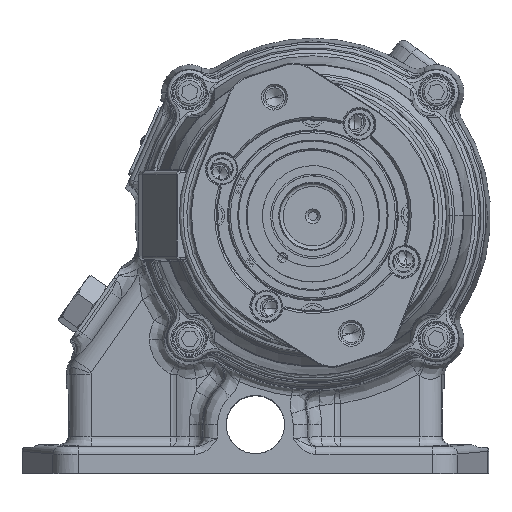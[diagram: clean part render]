
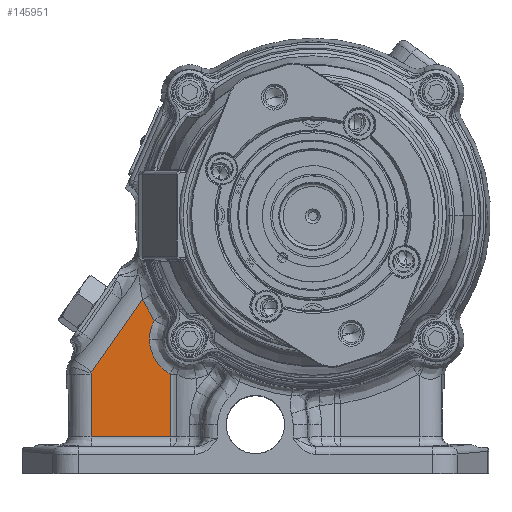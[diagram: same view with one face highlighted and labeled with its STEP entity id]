
A CAD part, top view. The second image highlights one B-rep face of the part: STEP entity #145951.
In plain terms, the highlighted planar face has unit normal (0, 0, 1).
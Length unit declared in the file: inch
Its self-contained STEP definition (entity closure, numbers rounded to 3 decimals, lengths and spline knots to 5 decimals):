
#246 = CARTESIAN_POINT ( 'NONE',  ( -4.18096, 1.60727, 1.3875 ) ) ;
#1096 = VERTEX_POINT ( 'NONE', #92290 ) ;
#5112 = CARTESIAN_POINT ( 'NONE',  ( -2.71359, 0.83497, 1.3875 ) ) ;
#5139 = VECTOR ( 'NONE', #5451, 39.37008 ) ;
#5451 = DIRECTION ( 'NONE',  ( -0.512, 0.859, 0. ) ) ;
#7118 = CARTESIAN_POINT ( 'NONE',  ( -1.83816, 0.01261, 1.3875 ) ) ;
#7927 = VERTEX_POINT ( 'NONE', #69440 ) ;
#10930 = EDGE_CURVE ( 'NONE', #1096, #87466, #110788, .T. ) ;
#16339 = CARTESIAN_POINT ( 'NONE',  ( -2.32198, 0.42411, 1.3875 ) ) ;
#16641 = CARTESIAN_POINT ( 'NONE',  ( -2.12303, 0.15221, 1.3875 ) ) ;
#17274 = B_SPLINE_CURVE_WITH_KNOTS ( 'NONE', 3,
 ( #57180, #153644, #121721, #45320 ),
 .UNSPECIFIED., .F., .F.,
 ( 4, 4 ),
 ( 0., 1. ),
 .UNSPECIFIED. ) ;
#18211 = CARTESIAN_POINT ( 'NONE',  ( -2.16128, 0.18698, 1.3875 ) ) ;
#20182 = CARTESIAN_POINT ( 'NONE',  ( 0.93723, 0.319, 1.3875 ) ) ;
#20646 = VERTEX_POINT ( 'NONE', #56575 ) ;
#25785 = DIRECTION ( 'NONE',  ( 0., 0., 1. ) ) ;
#26015 = EDGE_CURVE ( 'NONE', #107672, #128332, #88388, .T. ) ;
#26535 = PLANE ( 'NONE',  #100285 ) ;
#27749 = CARTESIAN_POINT ( 'NONE',  ( -1.84176, 0.01343, 1.3875 ) ) ;
#30829 = CARTESIAN_POINT ( 'NONE',  ( -2.27168, 0.32661, 1.3875 ) ) ;
#32243 = CARTESIAN_POINT ( 'NONE',  ( -2.82329, -0.66259, 1.3875 ) ) ;
#34149 = CARTESIAN_POINT ( 'NONE',  ( -2.81368, -0.68924, 1.3875 ) ) ;
#36606 = VECTOR ( 'NONE', #39369, 39.37008 ) ;
#38155 = DIRECTION ( 'NONE',  ( -0.512, 0.859, 0. ) ) ;
#39040 = CARTESIAN_POINT ( 'NONE',  ( -2.71359, 0.83497, 1.3875 ) ) ;
#39369 = DIRECTION ( 'NONE',  ( 0.859, 0.512, 0. ) ) ;
#40369 = CARTESIAN_POINT ( 'NONE',  ( -1.74379, -0.00273, 1.3875 ) ) ;
#41027 = CARTESIAN_POINT ( 'NONE',  ( -2.27523, -1.59362, 1.3875 ) ) ;
#41097 = CARTESIAN_POINT ( 'NONE',  ( -2.81368, -0.68924, 1.3875 ) ) ;
#41779 = CARTESIAN_POINT ( 'NONE',  ( -3.03517, 2.28945, 1.3875 ) ) ;
#42086 = CARTESIAN_POINT ( 'NONE',  ( -2.82165, -0.66952, 1.3875 ) ) ;
#43477 = CARTESIAN_POINT ( 'NONE',  ( -2.24138, 0.27572, 1.3875 ) ) ;
#45320 = CARTESIAN_POINT ( 'NONE',  ( -2.71359, 0.83497, 1.3875 ) ) ;
#46084 = ORIENTED_EDGE ( 'NONE', *, *, #138303, .T. ) ;
#49947 = VECTOR ( 'NONE', #38155, 39.37008 ) ;
#53007 = CARTESIAN_POINT ( 'NONE',  ( -2.15985, 0.1856, 1.3875 ) ) ;
#53653 = ORIENTED_EDGE ( 'NONE', *, *, #150174, .F. ) ;
#54538 = CARTESIAN_POINT ( 'NONE',  ( -1.83274, 0.01141, 1.3875 ) ) ;
#55027 = CARTESIAN_POINT ( 'NONE',  ( -2.27168, 0.32661, 1.3875 ) ) ;
#55346 = CARTESIAN_POINT ( 'NONE',  ( -2.14309, 0.16988, 1.3875 ) ) ;
#56575 = CARTESIAN_POINT ( 'NONE',  ( -2.36601, 0.63873, 1.3875 ) ) ;
#57180 = CARTESIAN_POINT ( 'NONE',  ( -2.36601, 0.63873, 1.3875 ) ) ;
#58294 = ORIENTED_EDGE ( 'NONE', *, *, #10930, .F. ) ;
#58934 = EDGE_LOOP ( 'NONE', ( #53653, #116294, #92636, #97924, #66610, #149536, #73043, #58294, #46084 ) ) ;
#59514 = B_SPLINE_CURVE_WITH_KNOTS ( 'NONE', 3,
 ( #42086, #138557, #140913, #34149 ),
 .UNSPECIFIED., .F., .F.,
 ( 4, 4 ),
 ( 0., 1. ),
 .UNSPECIFIED. ) ;
#64450 = CARTESIAN_POINT ( 'NONE',  ( -0.9685, 3.51989, 1.3875 ) ) ;
#64560 = CARTESIAN_POINT ( 'NONE',  ( -2.3539, 0.52969, 1.3875 ) ) ;
#64864 = CARTESIAN_POINT ( 'NONE',  ( -1.962, 0.05013, 1.3875 ) ) ;
#65544 = LINE ( 'NONE', #41779, #5139 ) ;
#65654 = CARTESIAN_POINT ( 'NONE',  ( -1.79475, 0.00409, 1.3875 ) ) ;
#66610 = ORIENTED_EDGE ( 'NONE', *, *, #75722, .T. ) ;
#69271 = EDGE_CURVE ( 'NONE', #20646, #122873, #17274, .T. ) ;
#69440 = CARTESIAN_POINT ( 'NONE',  ( -2.27168, 0.32661, 1.3875 ) ) ;
#73043 = ORIENTED_EDGE ( 'NONE', *, *, #119074, .T. ) ;
#75722 = EDGE_CURVE ( 'NONE', #7927, #20646, #104739, .T. ) ;
#75950 = CARTESIAN_POINT ( 'NONE',  ( -1.8201, 0.00876, 1.3875 ) ) ;
#77960 = CARTESIAN_POINT ( 'NONE',  ( -2.29989, 0.374, 1.3875 ) ) ;
#87466 = VERTEX_POINT ( 'NONE', #110078 ) ;
#88388 = LINE ( 'NONE', #20182, #36606 ) ;
#88842 = VERTEX_POINT ( 'NONE', #144937 ) ;
#90221 = VERTEX_POINT ( 'NONE', #41097 ) ;
#90916 = CARTESIAN_POINT ( 'NONE',  ( -2.0813, 0.11908, 1.3875 ) ) ;
#92290 = CARTESIAN_POINT ( 'NONE',  ( -2.82165, -0.66952, 1.3875 ) ) ;
#92636 = ORIENTED_EDGE ( 'NONE', *, *, #141081, .T. ) ;
#96484 = VECTOR ( 'NONE', #121326, 39.37008 ) ;
#97924 = ORIENTED_EDGE ( 'NONE', *, *, #138671, .T. ) ;
#100012 = DIRECTION ( 'NONE',  ( -0.512, 0.859, 0. ) ) ;
#100285 = AXIS2_PLACEMENT_3D ( 'NONE', #64450, #25785, #100012 ) ;
#104739 = B_SPLINE_CURVE_WITH_KNOTS ( 'NONE', 3,
 ( #55027, #77960, #16339, #64560, #150696, #138844 ),
 .UNSPECIFIED., .F., .F.,
 ( 4, 2, 4 ),
 ( 0., 0.5, 1. ),
 .UNSPECIFIED. ) ;
#105744 = CARTESIAN_POINT ( 'NONE',  ( -2.82165, -0.66952, 1.3875 ) ) ;
#107672 = VERTEX_POINT ( 'NONE', #41027 ) ;
#108537 = LINE ( 'NONE', #246, #49947 ) ;
#109656 = CARTESIAN_POINT ( 'NONE',  ( -1.12943, -0.91144, 1.3875 ) ) ;
#110078 = CARTESIAN_POINT ( 'NONE',  ( -2.82333, -0.64831, 1.3875 ) ) ;
#110788 = B_SPLINE_CURVE_WITH_KNOTS ( 'NONE', 3,
 ( #105744, #32243, #118409, #116059 ),
 .UNSPECIFIED., .F., .F.,
 ( 4, 4 ),
 ( 0., 1. ),
 .UNSPECIFIED. ) ;
#113074 = CARTESIAN_POINT ( 'NONE',  ( -2.15292, 0.17899, 1.3875 ) ) ;
#113872 = CARTESIAN_POINT ( 'NONE',  ( -2.20502, 0.2296, 1.3875 ) ) ;
#114644 = CARTESIAN_POINT ( 'NONE',  ( -1.67009, -0.00335, 1.3875 ) ) ;
#116059 = CARTESIAN_POINT ( 'NONE',  ( -2.82333, -0.64831, 1.3875 ) ) ;
#116294 = ORIENTED_EDGE ( 'NONE', *, *, #26015, .T. ) ;
#118409 = CARTESIAN_POINT ( 'NONE',  ( -2.82386, -0.65541, 1.3875 ) ) ;
#119074 = EDGE_CURVE ( 'NONE', #122873, #87466, #120535, .T. ) ;
#120535 = LINE ( 'NONE', #39040, #96484 ) ;
#121326 = DIRECTION ( 'NONE',  ( -0.074, -0.997, 0. ) ) ;
#121721 = CARTESIAN_POINT ( 'NONE',  ( -2.60181, 0.76232, 1.3875 ) ) ;
#122873 = VERTEX_POINT ( 'NONE', #5112 ) ;
#124945 = CARTESIAN_POINT ( 'NONE',  ( -2.04276, 0.09442, 1.3875 ) ) ;
#126522 = CARTESIAN_POINT ( 'NONE',  ( -1.90515, 0.02832, 1.3875 ) ) ;
#127296 = CARTESIAN_POINT ( 'NONE',  ( -1.8435, 0.01383, 1.3875 ) ) ;
#128332 = VERTEX_POINT ( 'NONE', #109656 ) ;
#136401 = FACE_OUTER_BOUND ( 'NONE', #58934, .T. ) ;
#138303 = EDGE_CURVE ( 'NONE', #1096, #90221, #59514, .T. ) ;
#138557 = CARTESIAN_POINT ( 'NONE',  ( -2.82001, -0.6765, 1.3875 ) ) ;
#138671 = EDGE_CURVE ( 'NONE', #88842, #7927, #141859, .T. ) ;
#138844 = CARTESIAN_POINT ( 'NONE',  ( -2.36601, 0.63873, 1.3875 ) ) ;
#140913 = CARTESIAN_POINT ( 'NONE',  ( -2.81735, -0.68308, 1.3875 ) ) ;
#141081 = EDGE_CURVE ( 'NONE', #128332, #88842, #65544, .T. ) ;
#141859 = B_SPLINE_CURVE_WITH_KNOTS ( 'NONE', 3,
 ( #114644, #148694, #40369, #65654, #75950, #54538, #7118, #27749, #127296, #126522, #64864, #124945, #90916, #16641, #55346, #113074, #151819, #53007, #18211, #113872, #43477, #30829 ),
 .UNSPECIFIED., .F., .F.,
 ( 4, 1, 1, 1, 1, 2, 2, 2, 1, 1, 1, 1, 2, 2, 4 ),
 ( 0., 0.125, 0.1875, 0.21875, 0.23437, 0.24219, 0.25, 0.5, 0.625, 0.6875, 0.71875, 0.73437, 0.74219, 0.75, 1. ),
 .UNSPECIFIED. ) ;
#144937 = CARTESIAN_POINT ( 'NONE',  ( -1.67009, -0.00335, 1.3875 ) ) ;
#145951 = ADVANCED_FACE ( 'NONE', ( #136401 ), #26535, .T. ) ;
#148694 = CARTESIAN_POINT ( 'NONE',  ( -1.69968, -0.00425, 1.3875 ) ) ;
#149536 = ORIENTED_EDGE ( 'NONE', *, *, #69271, .T. ) ;
#150174 = EDGE_CURVE ( 'NONE', #107672, #90221, #108537, .T. ) ;
#150696 = CARTESIAN_POINT ( 'NONE',  ( -2.36326, 0.58363, 1.3875 ) ) ;
#151819 = CARTESIAN_POINT ( 'NONE',  ( -2.15708, 0.18295, 1.3875 ) ) ;
#153644 = CARTESIAN_POINT ( 'NONE',  ( -2.48596, 0.69691, 1.3875 ) ) ;
